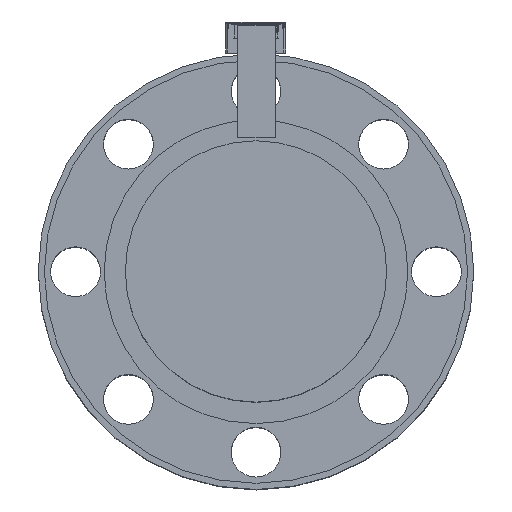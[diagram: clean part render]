
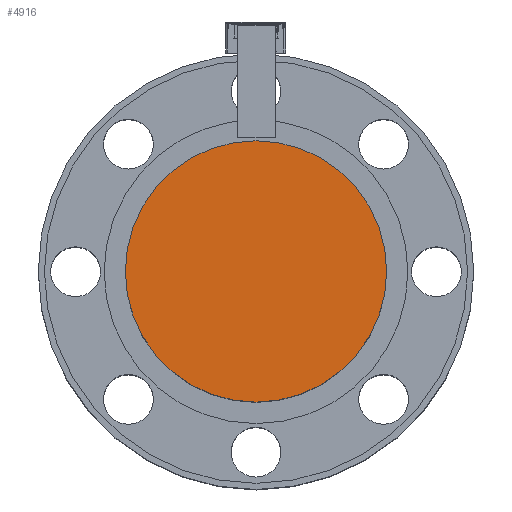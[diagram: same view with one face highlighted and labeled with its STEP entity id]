
A CAD part, top view. The second image highlights one B-rep face of the part: STEP entity #4916.
In plain terms, the highlighted planar face has unit normal (0, 0, 1).
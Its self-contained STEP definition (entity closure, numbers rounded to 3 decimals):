
#1340 = ORIENTED_EDGE ( 'NONE', *, *, #17053, .T. ) ;
#1552 = ORIENTED_EDGE ( 'NONE', *, *, #16908, .T. ) ;
#4916 = ADVANCED_FACE ( 'NONE', ( #38289 ), #69852, .T. ) ;
#16908 = EDGE_CURVE ( 'NONE', #26093, #26087, #69746, .T. ) ;
#17053 = EDGE_CURVE ( 'NONE', #26087, #26093, #70251, .T. ) ;
#22599 = AXIS2_PLACEMENT_3D ( 'NONE', #72928, #72888, #72895 ) ;
#22794 = AXIS2_PLACEMENT_3D ( 'NONE', #76820, #76835, #76809 ) ;
#25093 = EDGE_LOOP ( 'NONE', ( #1340, #1552 ) ) ;
#26087 = VERTEX_POINT ( 'NONE', #60015 ) ;
#26093 = VERTEX_POINT ( 'NONE', #60032 ) ;
#33468 = AXIS2_PLACEMENT_3D ( 'NONE', #69855, #69783, #69801 ) ;
#38289 = FACE_OUTER_BOUND ( 'NONE', #25093, .T. ) ;
#60015 = CARTESIAN_POINT ( 'NONE',  ( -210., 0., 500. ) ) ;
#60032 = CARTESIAN_POINT ( 'NONE',  ( 210., 0., 500. ) ) ;
#69746 = CIRCLE ( 'NONE', #22599, 210. ) ;
#69783 = DIRECTION ( 'NONE',  ( 0., 0., 1. ) ) ;
#69801 = DIRECTION ( 'NONE',  ( 1., 0., 0. ) ) ;
#69852 = PLANE ( 'NONE',  #33468 ) ;
#69855 = CARTESIAN_POINT ( 'NONE',  ( 0., 0., 500. ) ) ;
#70251 = CIRCLE ( 'NONE', #22794, 210. ) ;
#72888 = DIRECTION ( 'NONE',  ( 0., 0., 1. ) ) ;
#72895 = DIRECTION ( 'NONE',  ( 1., 0., 0. ) ) ;
#72928 = CARTESIAN_POINT ( 'NONE',  ( 0., 0., 500. ) ) ;
#76809 = DIRECTION ( 'NONE',  ( 1., 0., 0. ) ) ;
#76820 = CARTESIAN_POINT ( 'NONE',  ( 0., 0., 500. ) ) ;
#76835 = DIRECTION ( 'NONE',  ( 0., 0., 1. ) ) ;
